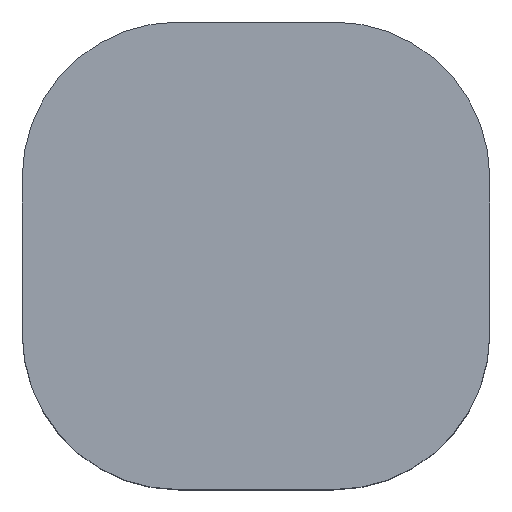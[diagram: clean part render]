
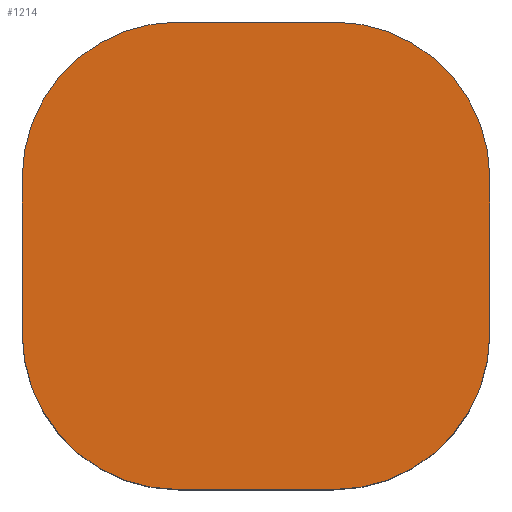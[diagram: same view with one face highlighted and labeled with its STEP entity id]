
A CAD part, top view. The second image highlights one B-rep face of the part: STEP entity #1214.
In plain terms, the highlighted planar face has unit normal (0, 0, 1).
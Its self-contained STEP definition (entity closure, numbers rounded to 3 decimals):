
#71=LINE('',#2012,#178);
#72=LINE('',#2014,#179);
#109=LINE('',#2138,#216);
#110=LINE('',#2140,#217);
#178=VECTOR('',#1529,10.);
#179=VECTOR('',#1532,10.);
#216=VECTOR('',#1665,10.);
#217=VECTOR('',#1668,10.);
#273=PLANE('',#1352);
#403=FACE_OUTER_BOUND('',#506,.T.);
#506=EDGE_LOOP('',(#1098,#1099,#1100,#1101,#1102,#1103,#1104,#1105));
#538=CIRCLE('',#1278,12.);
#542=CIRCLE('',#1284,12.);
#546=CIRCLE('',#1290,12.);
#550=CIRCLE('',#1297,12.);
#611=VERTEX_POINT('',#1962);
#612=VERTEX_POINT('',#1963);
#615=VERTEX_POINT('',#1974);
#616=VERTEX_POINT('',#1975);
#619=VERTEX_POINT('',#1986);
#620=VERTEX_POINT('',#1987);
#623=VERTEX_POINT('',#2000);
#624=VERTEX_POINT('',#2001);
#735=EDGE_CURVE('',#611,#612,#538,.T.);
#741=EDGE_CURVE('',#615,#616,#542,.T.);
#747=EDGE_CURVE('',#619,#620,#546,.T.);
#754=EDGE_CURVE('',#623,#624,#550,.T.);
#760=EDGE_CURVE('',#611,#620,#71,.T.);
#761=EDGE_CURVE('',#619,#624,#72,.T.);
#813=EDGE_CURVE('',#615,#612,#109,.T.);
#814=EDGE_CURVE('',#623,#616,#110,.T.);
#1098=ORIENTED_EDGE('',*,*,#735,.F.);
#1099=ORIENTED_EDGE('',*,*,#760,.T.);
#1100=ORIENTED_EDGE('',*,*,#747,.F.);
#1101=ORIENTED_EDGE('',*,*,#761,.T.);
#1102=ORIENTED_EDGE('',*,*,#754,.F.);
#1103=ORIENTED_EDGE('',*,*,#814,.T.);
#1104=ORIENTED_EDGE('',*,*,#741,.F.);
#1105=ORIENTED_EDGE('',*,*,#813,.T.);
#1214=ADVANCED_FACE('',(#403),#273,.T.);
#1278=AXIS2_PLACEMENT_3D('',#1964,#1469,#1470);
#1284=AXIS2_PLACEMENT_3D('',#1976,#1483,#1484);
#1290=AXIS2_PLACEMENT_3D('',#1988,#1497,#1498);
#1297=AXIS2_PLACEMENT_3D('',#2002,#1514,#1515);
#1352=AXIS2_PLACEMENT_3D('',#2141,#1669,#1670);
#1469=DIRECTION('center_axis',(0.,0.,-1.));
#1470=DIRECTION('ref_axis',(0.707,0.707,0.));
#1483=DIRECTION('center_axis',(0.,0.,-1.));
#1484=DIRECTION('ref_axis',(0.707,-0.707,0.));
#1497=DIRECTION('center_axis',(0.,0.,-1.));
#1498=DIRECTION('ref_axis',(-0.707,0.707,0.));
#1514=DIRECTION('center_axis',(0.,0.,-1.));
#1515=DIRECTION('ref_axis',(-0.707,-0.707,0.));
#1529=DIRECTION('',(-1.,0.,0.));
#1532=DIRECTION('',(0.,-1.,0.));
#1665=DIRECTION('',(0.,1.,0.));
#1668=DIRECTION('',(1.,0.,0.));
#1669=DIRECTION('center_axis',(0.,0.,1.));
#1670=DIRECTION('ref_axis',(1.,0.,0.));
#1962=CARTESIAN_POINT('',(6.,18.,2.));
#1963=CARTESIAN_POINT('',(18.,6.,2.));
#1964=CARTESIAN_POINT('Origin',(6.,6.,2.));
#1974=CARTESIAN_POINT('',(18.,-6.,2.));
#1975=CARTESIAN_POINT('',(6.,-18.,2.));
#1976=CARTESIAN_POINT('Origin',(6.,-6.,2.));
#1986=CARTESIAN_POINT('',(-18.,6.,2.));
#1987=CARTESIAN_POINT('',(-6.,18.,2.));
#1988=CARTESIAN_POINT('Origin',(-6.,6.,2.));
#2000=CARTESIAN_POINT('',(-6.,-18.,2.));
#2001=CARTESIAN_POINT('',(-18.,-6.,2.));
#2002=CARTESIAN_POINT('Origin',(-6.,-6.,2.));
#2012=CARTESIAN_POINT('',(-18.,18.,2.));
#2014=CARTESIAN_POINT('',(-18.,-18.,2.));
#2138=CARTESIAN_POINT('',(18.,18.,2.));
#2140=CARTESIAN_POINT('',(18.,-18.,2.));
#2141=CARTESIAN_POINT('Origin',(0.,0.,
2.));
